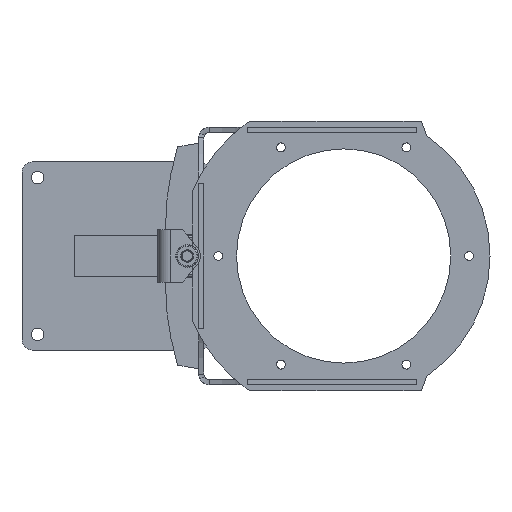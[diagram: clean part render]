
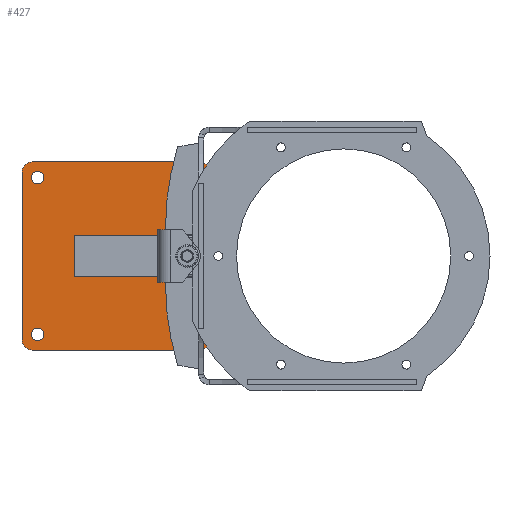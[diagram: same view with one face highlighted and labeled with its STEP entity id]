
A CAD part, front view. The second image highlights one B-rep face of the part: STEP entity #427.
In plain terms, the highlighted planar face has unit normal (0, -1, 0) as drawn and (0, 1, 0) by its records, which use the part's own axes.
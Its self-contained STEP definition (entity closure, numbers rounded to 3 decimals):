
#110=CARTESIAN_POINT('',(-75.,4.,-75.));
#111=DIRECTION('',(0.,-1.,0.));
#112=DIRECTION('',(1.,0.,0.));
#113=AXIS2_PLACEMENT_3D('',#110,#111,#112);
#115=CARTESIAN_POINT('',(-75.,4.,-75.));
#116=DIRECTION('',(0.,-1.,0.));
#117=DIRECTION('',(-1.,0.,0.));
#118=AXIS2_PLACEMENT_3D('',#115,#116,#117);
#120=CARTESIAN_POINT('',(75.,4.,-75.));
#121=DIRECTION('',(0.,-1.,0.));
#122=DIRECTION('',(1.,0.,0.));
#123=AXIS2_PLACEMENT_3D('',#120,#121,#122);
#125=CARTESIAN_POINT('',(75.,4.,-75.));
#126=DIRECTION('',(0.,-1.,0.));
#127=DIRECTION('',(-1.,0.,0.));
#128=AXIS2_PLACEMENT_3D('',#125,#126,#127);
#130=CARTESIAN_POINT('',(-75.,4.,75.));
#131=DIRECTION('',(0.,-1.,0.));
#132=DIRECTION('',(1.,0.,0.));
#133=AXIS2_PLACEMENT_3D('',#130,#131,#132);
#135=CARTESIAN_POINT('',(-75.,4.,75.));
#136=DIRECTION('',(0.,-1.,0.));
#137=DIRECTION('',(-1.,0.,0.));
#138=AXIS2_PLACEMENT_3D('',#135,#136,#137);
#140=CARTESIAN_POINT('',(75.,4.,75.));
#141=DIRECTION('',(0.,-1.,0.));
#142=DIRECTION('',(1.,0.,0.));
#143=AXIS2_PLACEMENT_3D('',#140,#141,#142);
#145=CARTESIAN_POINT('',(75.,4.,75.));
#146=DIRECTION('',(0.,-1.,0.));
#147=DIRECTION('',(-1.,0.,0.));
#148=AXIS2_PLACEMENT_3D('',#145,#146,#147);
#150=CARTESIAN_POINT('',(-80.,4.,-80.));
#151=DIRECTION('',(0.,1.,0.));
#152=DIRECTION('',(0.,0.,-1.));
#153=AXIS2_PLACEMENT_3D('',#150,#151,#152);
#155=DIRECTION('',(-1.,0.,0.));
#156=VECTOR('',#155,160.);
#157=CARTESIAN_POINT('',(80.,4.,-90.));
#158=LINE('',#157,#156);
#159=CARTESIAN_POINT('',(80.,4.,-80.));
#160=DIRECTION('',(0.,1.,0.));
#161=DIRECTION('',(1.,0.,0.));
#162=AXIS2_PLACEMENT_3D('',#159,#160,#161);
#164=DIRECTION('',(0.,0.,-1.));
#165=VECTOR('',#164,160.);
#166=CARTESIAN_POINT('',(90.,4.,80.));
#167=LINE('',#166,#165);
#168=CARTESIAN_POINT('',(80.,4.,80.));
#169=DIRECTION('',(0.,1.,0.));
#170=DIRECTION('',(0.,0.,1.));
#171=AXIS2_PLACEMENT_3D('',#168,#169,#170);
#173=DIRECTION('',(1.,0.,0.));
#174=VECTOR('',#173,160.);
#175=CARTESIAN_POINT('',(-80.,4.,90.));
#176=LINE('',#175,#174);
#177=CARTESIAN_POINT('',(-80.,4.,80.));
#178=DIRECTION('',(0.,1.,0.));
#179=DIRECTION('',(-1.,0.,0.));
#180=AXIS2_PLACEMENT_3D('',#177,#178,#179);
#182=DIRECTION('',(0.,0.,1.));
#183=VECTOR('',#182,160.);
#184=CARTESIAN_POINT('',(-90.,4.,-80.));
#185=LINE('',#184,#183);
#258=CARTESIAN_POINT('',(-69.,4.,-75.));
#259=CARTESIAN_POINT('',(-81.,4.,-75.));
#260=VERTEX_POINT('',#258);
#261=VERTEX_POINT('',#259);
#262=CARTESIAN_POINT('',(81.,4.,-75.));
#263=CARTESIAN_POINT('',(69.,4.,-75.));
#264=VERTEX_POINT('',#262);
#265=VERTEX_POINT('',#263);
#266=CARTESIAN_POINT('',(-69.,4.,75.));
#267=CARTESIAN_POINT('',(-81.,4.,75.));
#268=VERTEX_POINT('',#266);
#269=VERTEX_POINT('',#267);
#270=CARTESIAN_POINT('',(81.,4.,75.));
#271=CARTESIAN_POINT('',(69.,4.,75.));
#272=VERTEX_POINT('',#270);
#273=VERTEX_POINT('',#271);
#278=CARTESIAN_POINT('',(-80.,4.,-90.));
#279=VERTEX_POINT('',#278);
#280=CARTESIAN_POINT('',(-90.,4.,-80.));
#281=VERTEX_POINT('',#280);
#286=CARTESIAN_POINT('',(90.,4.,-80.));
#287=VERTEX_POINT('',#286);
#288=CARTESIAN_POINT('',(80.,4.,-90.));
#289=VERTEX_POINT('',#288);
#294=CARTESIAN_POINT('',(-90.,4.,80.));
#295=VERTEX_POINT('',#294);
#296=CARTESIAN_POINT('',(-80.,4.,90.));
#297=VERTEX_POINT('',#296);
#302=CARTESIAN_POINT('',(80.,4.,90.));
#303=VERTEX_POINT('',#302);
#304=CARTESIAN_POINT('',(90.,4.,80.));
#305=VERTEX_POINT('',#304);
#382=CARTESIAN_POINT('',(0.,4.,0.));
#383=DIRECTION('',(0.,1.,0.));
#384=DIRECTION('',(1.,0.,0.));
#385=AXIS2_PLACEMENT_3D('',#382,#383,#384);
#386=PLANE('',#385);
#388=ORIENTED_EDGE('',*,*,#387,.F.);
#390=ORIENTED_EDGE('',*,*,#389,.F.);
#392=ORIENTED_EDGE('',*,*,#391,.F.);
#394=ORIENTED_EDGE('',*,*,#393,.F.);
#396=ORIENTED_EDGE('',*,*,#395,.F.);
#398=ORIENTED_EDGE('',*,*,#397,.F.);
#400=ORIENTED_EDGE('',*,*,#399,.F.);
#402=ORIENTED_EDGE('',*,*,#401,.F.);
#403=EDGE_LOOP('',(#388,#390,#392,#394,#396,#398,#400,#402));
#404=FACE_OUTER_BOUND('',#403,.F.);
#406=ORIENTED_EDGE('',*,*,#405,.F.);
#408=ORIENTED_EDGE('',*,*,#407,.F.);
#409=EDGE_LOOP('',(#406,#408));
#410=FACE_BOUND('',#409,.F.);
#412=ORIENTED_EDGE('',*,*,#411,.F.);
#414=ORIENTED_EDGE('',*,*,#413,.F.);
#415=EDGE_LOOP('',(#412,#414));
#416=FACE_BOUND('',#415,.F.);
#418=ORIENTED_EDGE('',*,*,#417,.F.);
#420=ORIENTED_EDGE('',*,*,#419,.F.);
#421=EDGE_LOOP('',(#418,#420));
#422=FACE_BOUND('',#421,.F.);
#423=ORIENTED_EDGE('',*,*,#362,.F.);
#424=ORIENTED_EDGE('',*,*,#376,.F.);
#425=EDGE_LOOP('',(#423,#424));
#426=FACE_BOUND('',#425,.F.);
#114=CIRCLE('',#113,6.);
#119=CIRCLE('',#118,6.);
#124=CIRCLE('',#123,6.);
#129=CIRCLE('',#128,6.);
#134=CIRCLE('',#133,6.);
#139=CIRCLE('',#138,6.);
#144=CIRCLE('',#143,6.);
#149=CIRCLE('',#148,6.);
#154=CIRCLE('',#153,10.);
#163=CIRCLE('',#162,10.);
#172=CIRCLE('',#171,10.);
#181=CIRCLE('',#180,10.);
#362=EDGE_CURVE('',#260,#261,#114,.T.);
#376=EDGE_CURVE('',#261,#260,#119,.T.);
#387=EDGE_CURVE('',#279,#281,#154,.T.);
#389=EDGE_CURVE('',#289,#279,#158,.T.);
#391=EDGE_CURVE('',#287,#289,#163,.T.);
#393=EDGE_CURVE('',#305,#287,#167,.T.);
#395=EDGE_CURVE('',#303,#305,#172,.T.);
#397=EDGE_CURVE('',#297,#303,#176,.T.);
#399=EDGE_CURVE('',#295,#297,#181,.T.);
#401=EDGE_CURVE('',#281,#295,#185,.T.);
#405=EDGE_CURVE('',#264,#265,#124,.T.);
#407=EDGE_CURVE('',#265,#264,#129,.T.);
#411=EDGE_CURVE('',#268,#269,#134,.T.);
#413=EDGE_CURVE('',#269,#268,#139,.T.);
#417=EDGE_CURVE('',#272,#273,#144,.T.);
#419=EDGE_CURVE('',#273,#272,#149,.T.);
#427=ADVANCED_FACE('',(#404,#410,#416,#422,#426),#386,.T.);
